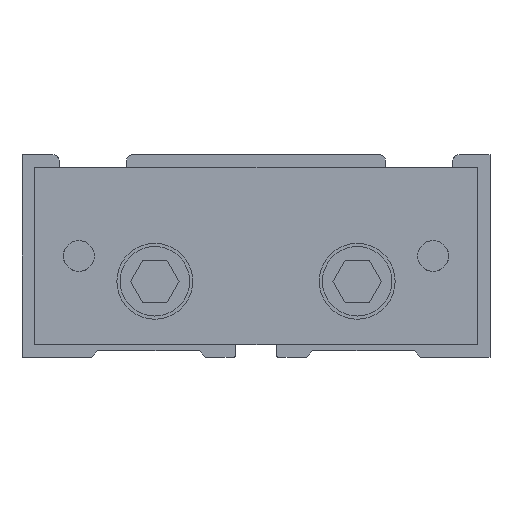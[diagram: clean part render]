
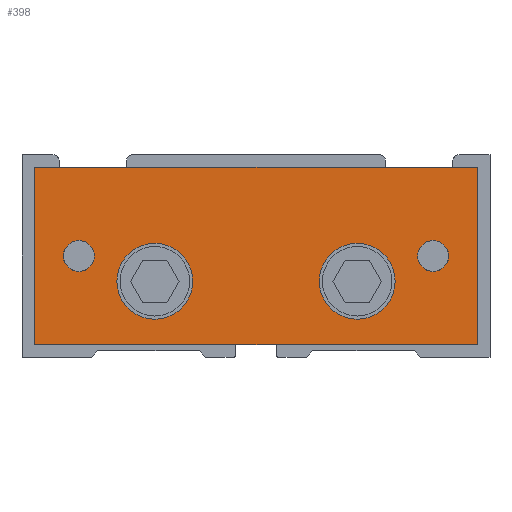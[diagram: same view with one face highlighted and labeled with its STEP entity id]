
A CAD part, left-side view. The second image highlights one B-rep face of the part: STEP entity #398.
In plain terms, the highlighted planar face has unit normal (-1, 0, 0).
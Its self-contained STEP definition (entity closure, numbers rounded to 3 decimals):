
#398 = ADVANCED_FACE( '', ( #927, #928, #929, #930, #931 ), #932, .F. );
#927 = FACE_BOUND( '', #1639, .T. );
#928 = FACE_BOUND( '', #1640, .T. );
#929 = FACE_BOUND( '', #1641, .T. );
#930 = FACE_BOUND( '', #1642, .T. );
#931 = FACE_OUTER_BOUND( '', #1643, .T. );
#932 = PLANE( '', #1644 );
#1639 = EDGE_LOOP( '', ( #2625 ) );
#1640 = EDGE_LOOP( '', ( #2626 ) );
#1641 = EDGE_LOOP( '', ( #2627 ) );
#1642 = EDGE_LOOP( '', ( #2628 ) );
#1643 = EDGE_LOOP( '', ( #2629, #2630, #2631, #2632 ) );
#1644 = AXIS2_PLACEMENT_3D( '', #2633, #2634, #2635 );
#2625 = ORIENTED_EDGE( '', *, *, #4047, .F. );
#2626 = ORIENTED_EDGE( '', *, *, #4048, .T. );
#2627 = ORIENTED_EDGE( '', *, *, #4049, .T. );
#2628 = ORIENTED_EDGE( '', *, *, #4050, .T. );
#2629 = ORIENTED_EDGE( '', *, *, #3984, .F. );
#2630 = ORIENTED_EDGE( '', *, *, #4051, .F. );
#2631 = ORIENTED_EDGE( '', *, *, #4052, .F. );
#2632 = ORIENTED_EDGE( '', *, *, #4053, .F. );
#2633 = CARTESIAN_POINT( '', ( 0., 0., 0. ) );
#2634 = DIRECTION( '', ( 1., 0., 0. ) );
#2635 = DIRECTION( '', ( 0., 0., -1. ) );
#3984 = EDGE_CURVE( '', #4756, #4757, #4758, .T. );
#4047 = EDGE_CURVE( '', #4853, #4853, #4854, .T. );
#4048 = EDGE_CURVE( '', #4855, #4855, #4856, .T. );
#4049 = EDGE_CURVE( '', #4857, #4857, #4858, .T. );
#4050 = EDGE_CURVE( '', #4859, #4859, #4860, .T. );
#4051 = EDGE_CURVE( '', #4861, #4756, #4862, .T. );
#4052 = EDGE_CURVE( '', #4863, #4861, #4864, .T. );
#4053 = EDGE_CURVE( '', #4757, #4863, #4865, .T. );
#4756 = VERTEX_POINT( '', #5903 );
#4757 = VERTEX_POINT( '', #5904 );
#4758 = LINE( '', #5905, #5906 );
#4853 = VERTEX_POINT( '', #6057 );
#4854 = CIRCLE( '', #6058, 3. );
#4855 = VERTEX_POINT( '', #6059 );
#4856 = CIRCLE( '', #6060, 3. );
#4857 = VERTEX_POINT( '', #6061 );
#4858 = CIRCLE( '', #6062, 1.23 );
#4859 = VERTEX_POINT( '', #6063 );
#4860 = CIRCLE( '', #6064, 1.23 );
#4861 = VERTEX_POINT( '', #6065 );
#4862 = LINE( '', #6066, #6067 );
#4863 = VERTEX_POINT( '', #6068 );
#4864 = LINE( '', #6069, #6070 );
#4865 = LINE( '', #6071, #6072 );
#5903 = CARTESIAN_POINT( '', ( 0., 17.5, 9. ) );
#5904 = CARTESIAN_POINT( '', ( 0., -17.5, 9. ) );
#5905 = CARTESIAN_POINT( '', ( 0., 17.5, 9. ) );
#5906 = VECTOR( '', #7071, 1000. );
#6057 = CARTESIAN_POINT( '', ( 0., -8., 3. ) );
#6058 = AXIS2_PLACEMENT_3D( '', #7146, #7147, #7148 );
#6059 = CARTESIAN_POINT( '', ( 0., 8., -3. ) );
#6060 = AXIS2_PLACEMENT_3D( '', #7149, #7150, #7151 );
#6061 = CARTESIAN_POINT( '', ( 0., -14., 0.771 ) );
#6062 = AXIS2_PLACEMENT_3D( '', #7152, #7153, #7154 );
#6063 = CARTESIAN_POINT( '', ( 0., 14., 0.771 ) );
#6064 = AXIS2_PLACEMENT_3D( '', #7155, #7156, #7157 );
#6065 = CARTESIAN_POINT( '', ( 0., 17.5, -5. ) );
#6066 = CARTESIAN_POINT( '', ( 0., 17.5, -5. ) );
#6067 = VECTOR( '', #7158, 1000. );
#6068 = CARTESIAN_POINT( '', ( 0., -17.5, -5. ) );
#6069 = CARTESIAN_POINT( '', ( 0., -17.5, -5. ) );
#6070 = VECTOR( '', #7159, 1000. );
#6071 = CARTESIAN_POINT( '', ( 0., -17.5, 9. ) );
#6072 = VECTOR( '', #7160, 1000. );
#7071 = DIRECTION( '', ( 0., -1., 0. ) );
#7146 = CARTESIAN_POINT( '', ( 0., -8., 0. ) );
#7147 = DIRECTION( '', ( -1., 0., 0. ) );
#7148 = DIRECTION( '', ( 0., 0., 1. ) );
#7149 = CARTESIAN_POINT( '', ( 0., 8., 0. ) );
#7150 = DIRECTION( '', ( 1., 0., 0. ) );
#7151 = DIRECTION( '', ( 0., 0., -1. ) );
#7152 = CARTESIAN_POINT( '', ( 0., -14., 2. ) );
#7153 = DIRECTION( '', ( 1., 0., 0. ) );
#7154 = DIRECTION( '', ( 0., 0., -1. ) );
#7155 = CARTESIAN_POINT( '', ( 0., 14., 2. ) );
#7156 = DIRECTION( '', ( 1., 0., 0. ) );
#7157 = DIRECTION( '', ( 0., 0., -1. ) );
#7158 = DIRECTION( '', ( 0., 0., 1. ) );
#7159 = DIRECTION( '', ( 0., 1., 0. ) );
#7160 = DIRECTION( '', ( 0., 0., -1. ) );
